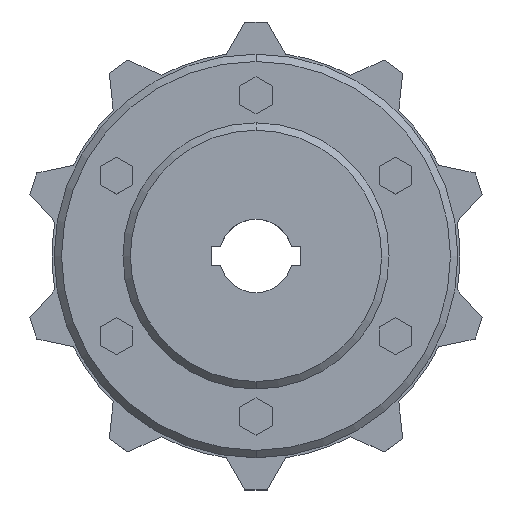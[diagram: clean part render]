
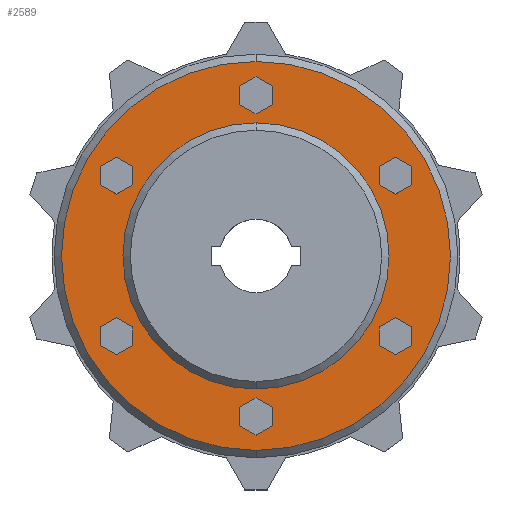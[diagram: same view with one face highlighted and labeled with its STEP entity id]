
A CAD part, top view. The second image highlights one B-rep face of the part: STEP entity #2589.
In plain terms, the highlighted planar face has unit normal (0, 0, 1) as drawn and (0, 1, 0) by its records, which use the part's own axes.
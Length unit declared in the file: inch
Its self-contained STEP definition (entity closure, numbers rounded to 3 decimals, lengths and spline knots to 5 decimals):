
#2085=CARTESIAN_POINT('',(0.,0.095,0.));
#2086=DIRECTION('',(0.,1.,0.));
#2087=DIRECTION('',(1.,0.,0.));
#2088=AXIS2_PLACEMENT_3D('',#2085,#2086,#2087);
#2095=CARTESIAN_POINT('',(0.,0.095,0.));
#2096=DIRECTION('',(0.,-1.,0.));
#2097=DIRECTION('',(1.,0.,0.));
#2098=AXIS2_PLACEMENT_3D('',#2095,#2096,#2097);
#2100=CARTESIAN_POINT('',(0.,0.095,0.));
#2101=DIRECTION('',(0.,-1.,0.));
#2102=DIRECTION('',(-1.,0.,0.));
#2103=AXIS2_PLACEMENT_3D('',#2100,#2101,#2102);
#2105=CARTESIAN_POINT('',(-2.188,0.095,0.));
#2106=DIRECTION('',(0.,-1.,0.));
#2107=DIRECTION('',(1.,0.,0.));
#2108=AXIS2_PLACEMENT_3D('',#2105,#2106,#2107);
#2110=CARTESIAN_POINT('',(-2.188,0.095,0.));
#2111=DIRECTION('',(0.,-1.,0.));
#2112=DIRECTION('',(-1.,0.,0.));
#2113=AXIS2_PLACEMENT_3D('',#2110,#2111,#2112);
#2115=CARTESIAN_POINT('',(-1.094,0.095,-1.89486));
#2116=DIRECTION('',(0.,-1.,0.));
#2117=DIRECTION('',(0.5,0.,0.866));
#2118=AXIS2_PLACEMENT_3D('',#2115,#2116,#2117);
#2120=CARTESIAN_POINT('',(-1.094,0.095,-1.89486));
#2121=DIRECTION('',(0.,-1.,0.));
#2122=DIRECTION('',(-0.5,0.,-0.866));
#2123=AXIS2_PLACEMENT_3D('',#2120,#2121,#2122);
#2125=CARTESIAN_POINT('',(1.094,0.095,-1.89486));
#2126=DIRECTION('',(0.,-1.,0.));
#2127=DIRECTION('',(-0.5,0.,0.866));
#2128=AXIS2_PLACEMENT_3D('',#2125,#2126,#2127);
#2130=CARTESIAN_POINT('',(1.094,0.095,-1.89486));
#2131=DIRECTION('',(0.,-1.,0.));
#2132=DIRECTION('',(0.5,0.,-0.866));
#2133=AXIS2_PLACEMENT_3D('',#2130,#2131,#2132);
#2135=CARTESIAN_POINT('',(2.188,0.095,0.));
#2136=DIRECTION('',(0.,-1.,0.));
#2137=DIRECTION('',(-1.,0.,0.));
#2138=AXIS2_PLACEMENT_3D('',#2135,#2136,#2137);
#2140=CARTESIAN_POINT('',(2.188,0.095,0.));
#2141=DIRECTION('',(0.,-1.,0.));
#2142=DIRECTION('',(1.,0.,0.));
#2143=AXIS2_PLACEMENT_3D('',#2140,#2141,#2142);
#2145=CARTESIAN_POINT('',(1.094,0.095,1.89486));
#2146=DIRECTION('',(0.,-1.,0.));
#2147=DIRECTION('',(-0.5,0.,-0.866));
#2148=AXIS2_PLACEMENT_3D('',#2145,#2146,#2147);
#2150=CARTESIAN_POINT('',(1.094,0.095,1.89486));
#2151=DIRECTION('',(0.,-1.,0.));
#2152=DIRECTION('',(0.5,0.,0.866));
#2153=AXIS2_PLACEMENT_3D('',#2150,#2151,#2152);
#2155=CARTESIAN_POINT('',(-1.094,0.095,1.89486));
#2156=DIRECTION('',(0.,-1.,0.));
#2157=DIRECTION('',(0.5,0.,-0.866));
#2158=AXIS2_PLACEMENT_3D('',#2155,#2156,#2157);
#2160=CARTESIAN_POINT('',(-1.094,0.095,1.89486));
#2161=DIRECTION('',(0.,-1.,0.));
#2162=DIRECTION('',(-0.5,0.,0.866));
#2163=AXIS2_PLACEMENT_3D('',#2160,#2161,#2162);
#2267=CARTESIAN_POINT('',(0.,0.095,0.));
#2268=DIRECTION('',(0.,1.,0.));
#2269=DIRECTION('',(-1.,0.,0.));
#2270=AXIS2_PLACEMENT_3D('',#2267,#2268,#2269);
#2341=CARTESIAN_POINT('',(1.813,0.095,0.));
#2342=CARTESIAN_POINT('',(-1.813,0.095,0.));
#2343=VERTEX_POINT('',#2341);
#2344=VERTEX_POINT('',#2342);
#2345=CARTESIAN_POINT('',(2.65,0.095,0.));
#2346=CARTESIAN_POINT('',(-2.65,0.095,0.));
#2347=VERTEX_POINT('',#2345);
#2348=VERTEX_POINT('',#2346);
#2357=CARTESIAN_POINT('',(-2.061,0.095,0.));
#2358=CARTESIAN_POINT('',(-2.315,0.095,0.));
#2359=VERTEX_POINT('',#2357);
#2360=VERTEX_POINT('',#2358);
#2389=CARTESIAN_POINT('',(-1.0305,0.095,-1.78488));
#2390=CARTESIAN_POINT('',(-1.1575,0.095,-2.00485));
#2391=VERTEX_POINT('',#2389);
#2392=VERTEX_POINT('',#2390);
#2393=CARTESIAN_POINT('',(1.0305,0.095,-1.78488));
#2394=CARTESIAN_POINT('',(1.1575,0.095,-2.00485));
#2395=VERTEX_POINT('',#2393);
#2396=VERTEX_POINT('',#2394);
#2397=CARTESIAN_POINT('',(2.061,0.095,0.));
#2398=CARTESIAN_POINT('',(2.315,0.095,0.));
#2399=VERTEX_POINT('',#2397);
#2400=VERTEX_POINT('',#2398);
#2401=CARTESIAN_POINT('',(1.0305,0.095,1.78488));
#2402=CARTESIAN_POINT('',(1.1575,0.095,2.00485));
#2403=VERTEX_POINT('',#2401);
#2404=VERTEX_POINT('',#2402);
#2405=CARTESIAN_POINT('',(-1.0305,0.095,1.78488));
#2406=CARTESIAN_POINT('',(-1.1575,0.095,2.00485));
#2407=VERTEX_POINT('',#2405);
#2408=VERTEX_POINT('',#2406);
#2537=CARTESIAN_POINT('',(0.,0.095,0.));
#2538=DIRECTION('',(0.,1.,0.));
#2539=DIRECTION('',(1.,0.,0.));
#2540=AXIS2_PLACEMENT_3D('',#2537,#2538,#2539);
#2541=PLANE('',#2540);
#2542=ORIENTED_EDGE('',*,*,#2527,.F.);
#2544=ORIENTED_EDGE('',*,*,#2543,.F.);
#2545=EDGE_LOOP('',(#2542,#2544));
#2546=FACE_OUTER_BOUND('',#2545,.F.);
#2548=ORIENTED_EDGE('',*,*,#2547,.F.);
#2550=ORIENTED_EDGE('',*,*,#2549,.F.);
#2551=EDGE_LOOP('',(#2548,#2550));
#2552=FACE_BOUND('',#2551,.F.);
#2554=ORIENTED_EDGE('',*,*,#2553,.F.);
#2556=ORIENTED_EDGE('',*,*,#2555,.F.);
#2557=EDGE_LOOP('',(#2554,#2556));
#2558=FACE_BOUND('',#2557,.F.);
#2560=ORIENTED_EDGE('',*,*,#2559,.F.);
#2562=ORIENTED_EDGE('',*,*,#2561,.F.);
#2563=EDGE_LOOP('',(#2560,#2562));
#2564=FACE_BOUND('',#2563,.F.);
#2566=ORIENTED_EDGE('',*,*,#2565,.F.);
#2568=ORIENTED_EDGE('',*,*,#2567,.F.);
#2569=EDGE_LOOP('',(#2566,#2568));
#2570=FACE_BOUND('',#2569,.F.);
#2572=ORIENTED_EDGE('',*,*,#2571,.F.);
#2574=ORIENTED_EDGE('',*,*,#2573,.F.);
#2575=EDGE_LOOP('',(#2572,#2574));
#2576=FACE_BOUND('',#2575,.F.);
#2578=ORIENTED_EDGE('',*,*,#2577,.F.);
#2580=ORIENTED_EDGE('',*,*,#2579,.F.);
#2581=EDGE_LOOP('',(#2578,#2580));
#2582=FACE_BOUND('',#2581,.F.);
#2584=ORIENTED_EDGE('',*,*,#2583,.F.);
#2586=ORIENTED_EDGE('',*,*,#2585,.F.);
#2587=EDGE_LOOP('',(#2584,#2586));
#2588=FACE_BOUND('',#2587,.F.);
#2589=ADVANCED_FACE('',(#2546,#2552,#2558,#2564,#2570,#2576,#2582,#2588),#2541,
.T.);
#2089=CIRCLE('',#2088,2.65);
#2099=CIRCLE('',#2098,1.813);
#2104=CIRCLE('',#2103,1.813);
#2109=CIRCLE('',#2108,0.127);
#2114=CIRCLE('',#2113,0.127);
#2119=CIRCLE('',#2118,0.127);
#2124=CIRCLE('',#2123,0.127);
#2129=CIRCLE('',#2128,0.127);
#2134=CIRCLE('',#2133,0.127);
#2139=CIRCLE('',#2138,0.127);
#2144=CIRCLE('',#2143,0.127);
#2149=CIRCLE('',#2148,0.127);
#2154=CIRCLE('',#2153,0.127);
#2159=CIRCLE('',#2158,0.127);
#2164=CIRCLE('',#2163,0.127);
#2271=CIRCLE('',#2270,2.65);
#2527=EDGE_CURVE('',#2347,#2348,#2089,.T.);
#2543=EDGE_CURVE('',#2348,#2347,#2271,.T.);
#2547=EDGE_CURVE('',#2343,#2344,#2099,.T.);
#2549=EDGE_CURVE('',#2344,#2343,#2104,.T.);
#2553=EDGE_CURVE('',#2359,#2360,#2109,.T.);
#2555=EDGE_CURVE('',#2360,#2359,#2114,.T.);
#2559=EDGE_CURVE('',#2391,#2392,#2119,.T.);
#2561=EDGE_CURVE('',#2392,#2391,#2124,.T.);
#2565=EDGE_CURVE('',#2395,#2396,#2129,.T.);
#2567=EDGE_CURVE('',#2396,#2395,#2134,.T.);
#2571=EDGE_CURVE('',#2399,#2400,#2139,.T.);
#2573=EDGE_CURVE('',#2400,#2399,#2144,.T.);
#2577=EDGE_CURVE('',#2403,#2404,#2149,.T.);
#2579=EDGE_CURVE('',#2404,#2403,#2154,.T.);
#2583=EDGE_CURVE('',#2407,#2408,#2159,.T.);
#2585=EDGE_CURVE('',#2408,#2407,#2164,.T.);
